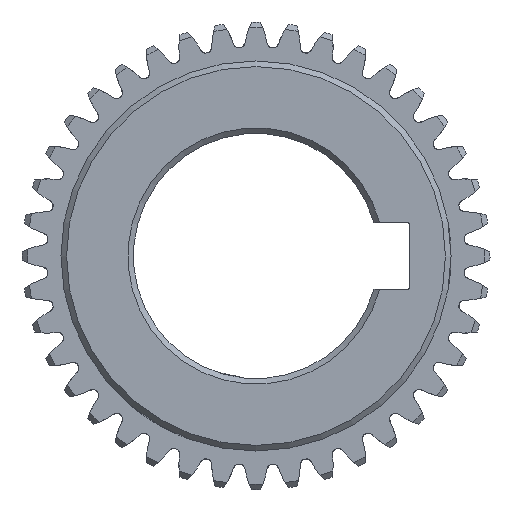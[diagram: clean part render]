
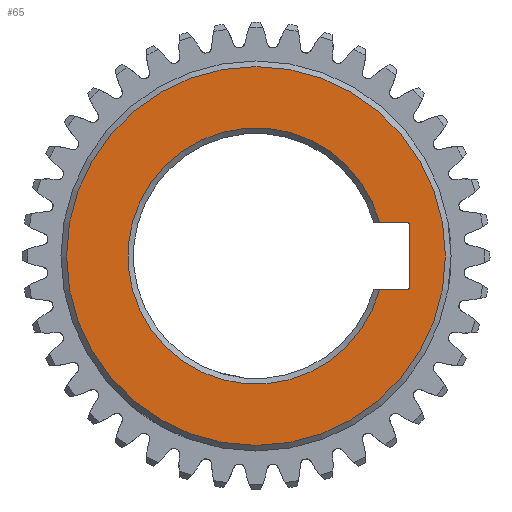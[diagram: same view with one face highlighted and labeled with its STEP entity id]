
A CAD part, left-side view. The second image highlights one B-rep face of the part: STEP entity #65.
In plain terms, the highlighted planar face has unit normal (-1, 0, 0).
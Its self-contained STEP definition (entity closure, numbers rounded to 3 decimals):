
#65=ADVANCED_FACE('',(#3093,#3095),#3097,.T.);
#3093=FACE_BOUND('',#3094,.T.);
#3094=EDGE_LOOP('',(#5541));
#3095=FACE_BOUND('',#3096,.T.);
#3096=EDGE_LOOP('',(#5542,#5543,#5544,#5545,#5546,#5547));
#3097=PLANE('',#3098);
#3098=AXIS2_PLACEMENT_3D('',#3099,#3100,#3101);
#3099=CARTESIAN_POINT('',(-15.,0.,0.));
#3100=DIRECTION('',(-1.,-0.,-0.));
#3101=DIRECTION('',(0.,0.,-1.));
#5541=ORIENTED_EDGE('',*,*,#9123,.T.);
#5542=ORIENTED_EDGE('',*,*,#9124,.T.);
#5543=ORIENTED_EDGE('',*,*,#9125,.T.);
#5544=ORIENTED_EDGE('',*,*,#9126,.T.);
#5545=ORIENTED_EDGE('',*,*,#9127,.T.);
#5546=ORIENTED_EDGE('',*,*,#9128,.T.);
#5547=ORIENTED_EDGE('',*,*,#9129,.T.);
#9123=EDGE_CURVE('',#10360,#10360,#10361,.T.);
#9124=EDGE_CURVE('',#10362,#10363,#10364,.F.);
#9125=EDGE_CURVE('',#10363,#10365,#10366,.T.);
#9126=EDGE_CURVE('',#10365,#10367,#10368,.F.);
#9127=EDGE_CURVE('',#10367,#10369,#10370,.T.);
#9128=EDGE_CURVE('',#10369,#10371,#10372,.F.);
#9129=EDGE_CURVE('',#10371,#10362,#10373,.F.);
#10360=VERTEX_POINT('',#12989);
#10361=CIRCLE('',#12990,17.);
#10362=VERTEX_POINT('',#12994);
#10363=VERTEX_POINT('',#12995);
#10364=LINE('',#12996,#12997);
#10365=VERTEX_POINT('',#12999);
#10366=CIRCLE('',#13000,0.25);
#10367=VERTEX_POINT('',#13004);
#10368=LINE('',#13005,#13006);
#10369=VERTEX_POINT('',#13008);
#10370=CIRCLE('',#13009,0.25);
#10371=VERTEX_POINT('',#13013);
#10372=LINE('',#13014,#13015);
#10373=CIRCLE('',#13017,11.5);
#12989=CARTESIAN_POINT('',(-15.,0.,-17.));
#12990=AXIS2_PLACEMENT_3D('',#12991,#12992,#12993);
#12991=CARTESIAN_POINT('',(-15.,0.,0.));
#12992=DIRECTION('',(-1.,-0.,-0.));
#12993=DIRECTION('',(0.,0.,-1.));
#12994=CARTESIAN_POINT('',(-15.,-11.102,3.));
#12995=CARTESIAN_POINT('',(-15.,-13.55,3.));
#12996=CARTESIAN_POINT('',(-15.,-13.55,3.));
#12997=VECTOR('',#12998,1.);
#12998=DIRECTION('',(0.,1.,0.));
#12999=CARTESIAN_POINT('',(-15.,-13.8,2.75));
#13000=AXIS2_PLACEMENT_3D('',#13001,#13002,#13003);
#13001=CARTESIAN_POINT('',(-15.,-13.55,2.75));
#13002=DIRECTION('',(1.,0.,0.));
#13003=DIRECTION('',(0.,0.,1.));
#13004=CARTESIAN_POINT('',(-15.,-13.8,-2.75));
#13005=CARTESIAN_POINT('',(-15.,-13.8,-2.75));
#13006=VECTOR('',#13007,1.);
#13007=DIRECTION('',(0.,0.,1.));
#13008=CARTESIAN_POINT('',(-15.,-13.55,-3.));
#13009=AXIS2_PLACEMENT_3D('',#13010,#13011,#13012);
#13010=CARTESIAN_POINT('',(-15.,-13.55,-2.75));
#13011=DIRECTION('',(1.,0.,0.));
#13012=DIRECTION('',(0.,-1.,0.));
#13013=CARTESIAN_POINT('',(-15.,-11.102,-3.));
#13014=CARTESIAN_POINT('',(-15.,-11.102,-3.));
#13015=VECTOR('',#13016,1.);
#13016=DIRECTION('',(0.,-1.,0.));
#13017=AXIS2_PLACEMENT_3D('',#13018,#13019,#13020);
#13018=CARTESIAN_POINT('',(-15.,0.,0.));
#13019=DIRECTION('',(-1.,-0.,-0.));
#13020=DIRECTION('',(0.,-0.965,0.261));
